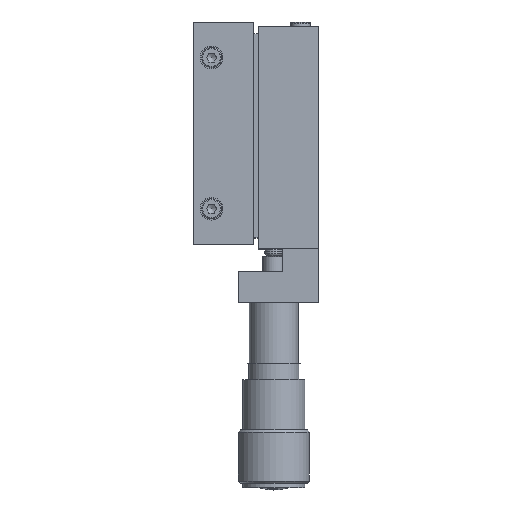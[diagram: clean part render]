
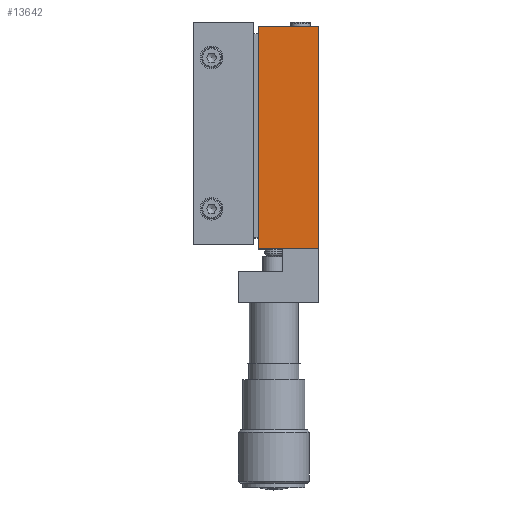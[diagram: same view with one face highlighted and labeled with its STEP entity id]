
A CAD part, top view. The second image highlights one B-rep face of the part: STEP entity #13642.
In plain terms, the highlighted planar face has unit normal (0, 0, 1).
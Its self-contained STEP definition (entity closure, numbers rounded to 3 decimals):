
#803=PLANE('',#14830);
#1444=FACE_OUTER_BOUND('',#2400,.T.);
#2400=EDGE_LOOP('',(#10514,#10515,#10516,#10517));
#4137=LINE('',#21980,#5109);
#4143=LINE('',#22026,#5115);
#4144=LINE('',#22028,#5116);
#4145=LINE('',#22029,#5117);
#5109=VECTOR('',#17359,10.);
#5115=VECTOR('',#17401,10.);
#5116=VECTOR('',#17402,10.);
#5117=VECTOR('',#17403,10.);
#6215=VERTEX_POINT('',#21977);
#6216=VERTEX_POINT('',#21979);
#6238=VERTEX_POINT('',#22025);
#6239=VERTEX_POINT('',#22027);
#7799=EDGE_CURVE('',#6216,#6215,#4137,.T.);
#7822=EDGE_CURVE('',#6215,#6238,#4143,.T.);
#7823=EDGE_CURVE('',#6238,#6239,#4144,.T.);
#7824=EDGE_CURVE('',#6239,#6216,#4145,.T.);
#10514=ORIENTED_EDGE('',*,*,#7799,.T.);
#10515=ORIENTED_EDGE('',*,*,#7822,.T.);
#10516=ORIENTED_EDGE('',*,*,#7823,.T.);
#10517=ORIENTED_EDGE('',*,*,#7824,.T.);
#13642=ADVANCED_FACE('',(#1444),#803,.T.);
#14830=AXIS2_PLACEMENT_3D('',#22024,#17399,#17400);
#17359=DIRECTION('',(0.,1.,0.));
#17399=DIRECTION('center_axis',(0.,0.,
1.));
#17400=DIRECTION('ref_axis',(-1.,0.,0.));
#17401=DIRECTION('',(-1.,0.,0.));
#17402=DIRECTION('',(0.,-1.,0.));
#17403=DIRECTION('',(1.,0.,0.));
#21977=CARTESIAN_POINT('',(47.657,-34.849,-37.875));
#21979=CARTESIAN_POINT('',(47.657,-84.849,-37.875));
#21980=CARTESIAN_POINT('',(47.657,-36.849,-37.875));
#22024=CARTESIAN_POINT('Origin',(40.157,-80.849,-37.875));
#22025=CARTESIAN_POINT('',(34.157,-34.849,-37.875));
#22026=CARTESIAN_POINT('',(34.157,-34.849,-37.875));
#22027=CARTESIAN_POINT('',(34.157,-84.849,-37.875));
#22028=CARTESIAN_POINT('',(34.157,-80.849,-37.875));
#22029=CARTESIAN_POINT('',(47.657,-84.849,-37.875));
